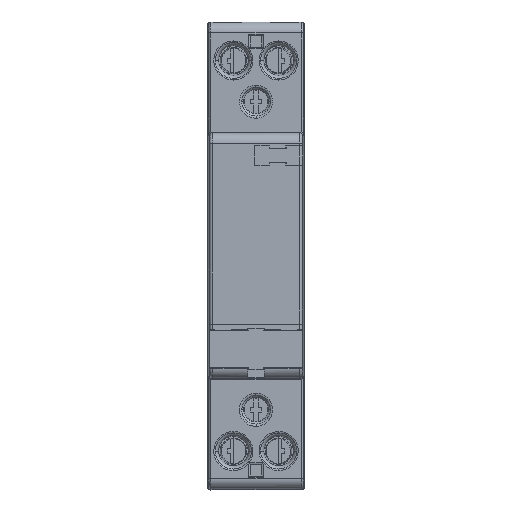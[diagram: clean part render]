
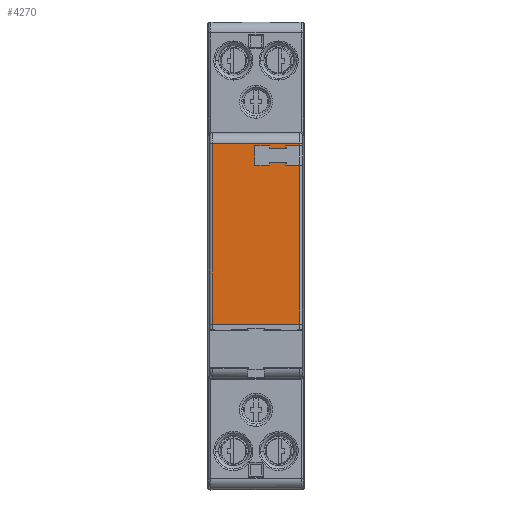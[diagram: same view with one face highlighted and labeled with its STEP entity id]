
A CAD part, top view. The second image highlights one B-rep face of the part: STEP entity #4270.
In plain terms, the highlighted planar face has unit normal (0, 0, 1).
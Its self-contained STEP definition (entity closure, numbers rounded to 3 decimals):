
#94 = LINE ( 'NONE', #25876, #13628 ) ;
#868 = CARTESIAN_POINT ( 'NONE',  ( 0., 64.95, 64.9 ) ) ;
#1197 = DIRECTION ( 'NONE',  ( 1., 0., 0. ) ) ;
#1228 = VECTOR ( 'NONE', #10990, 1000. ) ;
#1255 = EDGE_CURVE ( 'NONE', #8260, #13058, #1577, .T. ) ;
#1274 = CARTESIAN_POINT ( 'NONE',  ( 11.209, 64.95, 64.9 ) ) ;
#1427 = EDGE_CURVE ( 'NONE', #1440, #6211, #3667, .T. ) ;
#1440 = VERTEX_POINT ( 'NONE', #20619 ) ;
#1558 = CARTESIAN_POINT ( 'NONE',  ( 0.8, 30.05, 64.9 ) ) ;
#1577 = LINE ( 'NONE', #12826, #36265 ) ;
#1637 = CARTESIAN_POINT ( 'NONE',  ( 11.209, 61.95, 64.9 ) ) ;
#1773 = VERTEX_POINT ( 'NONE', #28077 ) ;
#1977 = VERTEX_POINT ( 'NONE', #35802 ) ;
#2318 = LINE ( 'NONE', #19264, #1228 ) ;
#2473 = CARTESIAN_POINT ( 'NONE',  ( 11.209, 58.95, 64.9 ) ) ;
#2618 = VECTOR ( 'NONE', #28142, 1000. ) ;
#3090 = ORIENTED_EDGE ( 'NONE', *, *, #23439, .T. ) ;
#3358 = VECTOR ( 'NONE', #28500, 1000. ) ;
#3399 = EDGE_CURVE ( 'NONE', #35089, #1440, #21299, .T. ) ;
#3402 = CARTESIAN_POINT ( 'NONE',  ( 0.8, 62.827, 64.9 ) ) ;
#3667 = LINE ( 'NONE', #1274, #34521 ) ;
#3887 = VERTEX_POINT ( 'NONE', #28176 ) ;
#4137 = VECTOR ( 'NONE', #19335, 1000. ) ;
#4270 = ADVANCED_FACE ( 'NONE', ( #12313 ), #15062, .T. ) ;
#5324 = CARTESIAN_POINT ( 'NONE',  ( 11.209, 64.95, 64.9 ) ) ;
#5760 = VECTOR ( 'NONE', #34947, 1000. ) ;
#6211 = VERTEX_POINT ( 'NONE', #2473 ) ;
#6605 = ORIENTED_EDGE ( 'NONE', *, *, #3399, .T. ) ;
#6608 = CARTESIAN_POINT ( 'NONE',  ( 16.7, 62.45, 64.9 ) ) ;
#6728 = CARTESIAN_POINT ( 'NONE',  ( 14.209, 59.45, 64.9 ) ) ;
#7190 = DIRECTION ( 'NONE',  ( 0., 1., 0. ) ) ;
#7295 = LINE ( 'NONE', #29743, #11043 ) ;
#7306 = ORIENTED_EDGE ( 'NONE', *, *, #12448, .T. ) ;
#7420 = ORIENTED_EDGE ( 'NONE', *, *, #30199, .T. ) ;
#7734 = VECTOR ( 'NONE', #12081, 1000. ) ;
#8260 = VERTEX_POINT ( 'NONE', #16450 ) ;
#8860 = EDGE_CURVE ( 'NONE', #36062, #1977, #7295, .T. ) ;
#9758 = DIRECTION ( 'NONE',  ( 0., -1., 0. ) ) ;
#9980 = VECTOR ( 'NONE', #10622, 1000. ) ;
#10211 = LINE ( 'NONE', #20896, #28165 ) ;
#10622 = DIRECTION ( 'NONE',  ( 1., 0., 0. ) ) ;
#10974 = VECTOR ( 'NONE', #7190, 1000. ) ;
#10990 = DIRECTION ( 'NONE',  ( 1., 0., 0. ) ) ;
#11011 = EDGE_CURVE ( 'NONE', #27584, #3887, #30381, .T. ) ;
#11043 = VECTOR ( 'NONE', #22009, 1000. ) ;
#11233 = LINE ( 'NONE', #22443, #3358 ) ;
#11545 = CARTESIAN_POINT ( 'NONE',  ( 14.209, 58.95, 64.9 ) ) ;
#12081 = DIRECTION ( 'NONE',  ( 0., 1., 0. ) ) ;
#12313 = FACE_OUTER_BOUND ( 'NONE', #34723, .T. ) ;
#12448 = EDGE_CURVE ( 'NONE', #31159, #8260, #18436, .T. ) ;
#12826 = CARTESIAN_POINT ( 'NONE',  ( 0., 62.827, 64.9 ) ) ;
#13058 = VERTEX_POINT ( 'NONE', #3402 ) ;
#13451 = CARTESIAN_POINT ( 'NONE',  ( 16.698, 30.05, 64.9 ) ) ;
#13576 = VECTOR ( 'NONE', #30581, 1000. ) ;
#13628 = VECTOR ( 'NONE', #20350, 1000. ) ;
#13736 = LINE ( 'NONE', #36191, #9980 ) ;
#14009 = LINE ( 'NONE', #16223, #13576 ) ;
#14282 = CARTESIAN_POINT ( 'NONE',  ( 8.5, 58.95, 64.9 ) ) ;
#14503 = ORIENTED_EDGE ( 'NONE', *, *, #8860, .T. ) ;
#14573 = VECTOR ( 'NONE', #16562, 1000. ) ;
#15062 = PLANE ( 'NONE',  #29876 ) ;
#15143 = CARTESIAN_POINT ( 'NONE',  ( 16.7, 64.95, 64.9 ) ) ;
#15676 = VERTEX_POINT ( 'NONE', #11545 ) ;
#15846 = VERTEX_POINT ( 'NONE', #1558 ) ;
#15898 = ORIENTED_EDGE ( 'NONE', *, *, #28957, .T. ) ;
#16223 = CARTESIAN_POINT ( 'NONE',  ( 0., 58.95, 64.9 ) ) ;
#16450 = CARTESIAN_POINT ( 'NONE',  ( 16.7, 62.827, 64.9 ) ) ;
#16562 = DIRECTION ( 'NONE',  ( 0., -1., 0. ) ) ;
#17191 = VERTEX_POINT ( 'NONE', #18287 ) ;
#17630 = VECTOR ( 'NONE', #32074, 1000. ) ;
#17674 = ORIENTED_EDGE ( 'NONE', *, *, #35130, .T. ) ;
#17817 = ORIENTED_EDGE ( 'NONE', *, *, #25407, .T. ) ;
#18287 = CARTESIAN_POINT ( 'NONE',  ( 11.209, 62.45, 64.9 ) ) ;
#18436 = LINE ( 'NONE', #15143, #17630 ) ;
#18962 = CARTESIAN_POINT ( 'NONE',  ( 0.8, 84.689, 64.9 ) ) ;
#19264 = CARTESIAN_POINT ( 'NONE',  ( 0., 62.45, 64.9 ) ) ;
#19335 = DIRECTION ( 'NONE',  ( 0., 1., 0. ) ) ;
#19865 = LINE ( 'NONE', #20229, #2618 ) ;
#20120 = EDGE_CURVE ( 'NONE', #1977, #17191, #2318, .T. ) ;
#20229 = CARTESIAN_POINT ( 'NONE',  ( 0., 58.95, 64.9 ) ) ;
#20350 = DIRECTION ( 'NONE',  ( 0., 1., 0. ) ) ;
#20619 = CARTESIAN_POINT ( 'NONE',  ( 11.209, 59.45, 64.9 ) ) ;
#20721 = ORIENTED_EDGE ( 'NONE', *, *, #27949, .T. ) ;
#20896 = CARTESIAN_POINT ( 'NONE',  ( 0., 62.45, 64.9 ) ) ;
#21180 = LINE ( 'NONE', #18962, #10974 ) ;
#21299 = LINE ( 'NONE', #32528, #5760 ) ;
#21909 = ORIENTED_EDGE ( 'NONE', *, *, #28074, .T. ) ;
#22009 = DIRECTION ( 'NONE',  ( 0., 1., 0. ) ) ;
#22067 = LINE ( 'NONE', #5324, #14573 ) ;
#22443 = CARTESIAN_POINT ( 'NONE',  ( 0., 61.95, 64.9 ) ) ;
#23439 = EDGE_CURVE ( 'NONE', #27384, #1773, #11233, .T. ) ;
#24042 = DIRECTION ( 'NONE',  ( -1., 0., 0. ) ) ;
#24260 = ORIENTED_EDGE ( 'NONE', *, *, #33432, .T. ) ;
#25407 = EDGE_CURVE ( 'NONE', #15846, #27584, #13736, .T. ) ;
#25876 = CARTESIAN_POINT ( 'NONE',  ( 14.209, 64.95, 64.9 ) ) ;
#27165 = CARTESIAN_POINT ( 'NONE',  ( 14.209, 62.45, 64.9 ) ) ;
#27232 = ORIENTED_EDGE ( 'NONE', *, *, #1255, .T. ) ;
#27384 = VERTEX_POINT ( 'NONE', #1637 ) ;
#27584 = VERTEX_POINT ( 'NONE', #30896 ) ;
#27949 = EDGE_CURVE ( 'NONE', #1773, #35952, #94, .T. ) ;
#28074 = EDGE_CURVE ( 'NONE', #15676, #35089, #29713, .T. ) ;
#28077 = CARTESIAN_POINT ( 'NONE',  ( 14.209, 61.95, 64.9 ) ) ;
#28142 = DIRECTION ( 'NONE',  ( -1., 0., 0. ) ) ;
#28165 = VECTOR ( 'NONE', #1197, 1000. ) ;
#28176 = CARTESIAN_POINT ( 'NONE',  ( 16.7, 58.95, 64.9 ) ) ;
#28500 = DIRECTION ( 'NONE',  ( 1., 0., 0. ) ) ;
#28957 = EDGE_CURVE ( 'NONE', #3887, #15676, #14009, .T. ) ;
#29713 = LINE ( 'NONE', #32490, #7734 ) ;
#29743 = CARTESIAN_POINT ( 'NONE',  ( 8.5, 64.95, 64.9 ) ) ;
#29876 = AXIS2_PLACEMENT_3D ( 'NONE', #868, #31833, #34034 ) ;
#30057 = ORIENTED_EDGE ( 'NONE', *, *, #11011, .T. ) ;
#30199 = EDGE_CURVE ( 'NONE', #6211, #36062, #19865, .T. ) ;
#30381 = LINE ( 'NONE', #13451, #4137 ) ;
#30581 = DIRECTION ( 'NONE',  ( -1., 0., 0. ) ) ;
#30896 = CARTESIAN_POINT ( 'NONE',  ( 16.698, 30.05, 64.9 ) ) ;
#31159 = VERTEX_POINT ( 'NONE', #6608 ) ;
#31833 = DIRECTION ( 'NONE',  ( 0., 0., 1. ) ) ;
#32055 = EDGE_CURVE ( 'NONE', #15846, #13058, #21180, .T. ) ;
#32074 = DIRECTION ( 'NONE',  ( 0., 1., 0. ) ) ;
#32490 = CARTESIAN_POINT ( 'NONE',  ( 14.209, 64.95, 64.9 ) ) ;
#32528 = CARTESIAN_POINT ( 'NONE',  ( 0., 59.45, 64.9 ) ) ;
#33323 = ORIENTED_EDGE ( 'NONE', *, *, #20120, .T. ) ;
#33432 = EDGE_CURVE ( 'NONE', #17191, #27384, #22067, .T. ) ;
#34034 = DIRECTION ( 'NONE',  ( 1., 0., 0. ) ) ;
#34521 = VECTOR ( 'NONE', #9758, 1000. ) ;
#34723 = EDGE_LOOP ( 'NONE', ( #35192, #7420, #14503, #33323, #24260, #3090, #20721, #17674, #7306, #27232, #34971, #17817, #30057, #15898, #21909, #6605 ) ) ;
#34947 = DIRECTION ( 'NONE',  ( -1., 0., 0. ) ) ;
#34971 = ORIENTED_EDGE ( 'NONE', *, *, #32055, .F. ) ;
#35089 = VERTEX_POINT ( 'NONE', #6728 ) ;
#35130 = EDGE_CURVE ( 'NONE', #35952, #31159, #10211, .T. ) ;
#35192 = ORIENTED_EDGE ( 'NONE', *, *, #1427, .T. ) ;
#35802 = CARTESIAN_POINT ( 'NONE',  ( 8.5, 62.45, 64.9 ) ) ;
#35952 = VERTEX_POINT ( 'NONE', #27165 ) ;
#36062 = VERTEX_POINT ( 'NONE', #14282 ) ;
#36191 = CARTESIAN_POINT ( 'NONE',  ( 0., 30.05, 64.9 ) ) ;
#36265 = VECTOR ( 'NONE', #24042, 1000. ) ;
